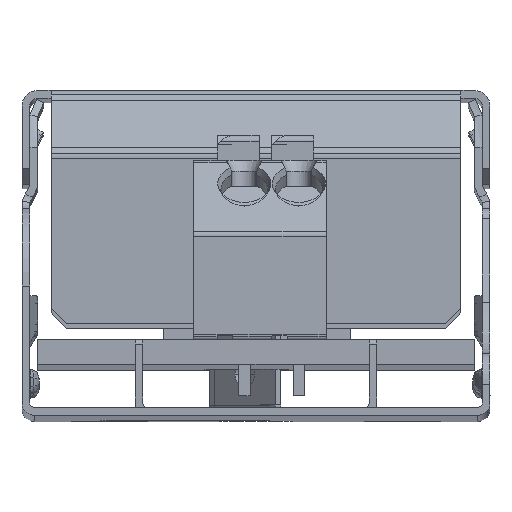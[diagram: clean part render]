
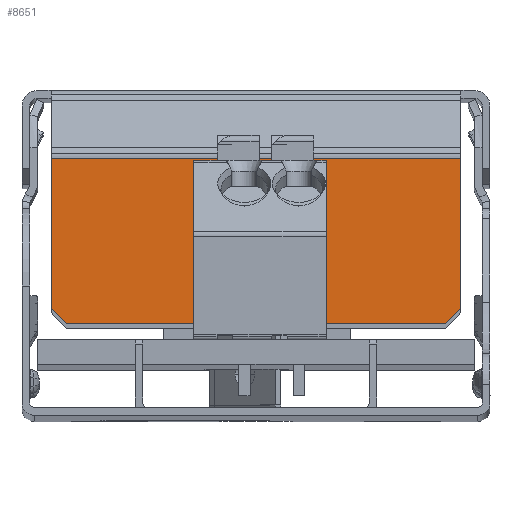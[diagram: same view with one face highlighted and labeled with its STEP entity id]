
A CAD part, top view. The second image highlights one B-rep face of the part: STEP entity #8651.
In plain terms, the highlighted planar face has unit normal (0, 0, 1).
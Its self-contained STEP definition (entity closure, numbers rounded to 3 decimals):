
#902 = VERTEX_POINT ( 'NONE', #15083 ) ;
#1785 = VECTOR ( 'NONE', #17153, 1000. ) ;
#2613 = CARTESIAN_POINT ( 'NONE',  ( 109.819, 104.426, 266.086 ) ) ;
#4032 = EDGE_CURVE ( 'NONE', #902, #11486, #41217, .T. ) ;
#5002 = CARTESIAN_POINT ( 'NONE',  ( 84.548, 115.009, 266.086 ) ) ;
#5644 = DIRECTION ( 'NONE',  ( 0., -1., 0. ) ) ;
#5781 = EDGE_CURVE ( 'NONE', #35199, #12349, #10322, .T. ) ;
#6549 = VERTEX_POINT ( 'NONE', #13498 ) ;
#7874 = CARTESIAN_POINT ( 'NONE',  ( 84.548, 105.426, 266.086 ) ) ;
#8646 = DIRECTION ( 'NONE',  ( 0.707, -0.707, 0. ) ) ;
#8648 = FACE_OUTER_BOUND ( 'NONE', #21283, .T. ) ;
#8651 = ADVANCED_FACE ( 'NONE', ( #8648 ), #23849, .T. ) ;
#8869 = CARTESIAN_POINT ( 'NONE',  ( 110.819, 105.426, 266.086 ) ) ;
#9276 = CARTESIAN_POINT ( 'NONE',  ( 110.819, 115.009, 266.086 ) ) ;
#10322 = LINE ( 'NONE', #7874, #1785 ) ;
#10632 = CARTESIAN_POINT ( 'NONE',  ( 110.819, 104.426, 266.086 ) ) ;
#10930 = ORIENTED_EDGE ( 'NONE', *, *, #12495, .T. ) ;
#11103 = DIRECTION ( 'NONE',  ( 1., 0., 0. ) ) ;
#11486 = VERTEX_POINT ( 'NONE', #27943 ) ;
#12349 = VERTEX_POINT ( 'NONE', #5002 ) ;
#12495 = EDGE_CURVE ( 'NONE', #6549, #11486, #24988, .T. ) ;
#12832 = VECTOR ( 'NONE', #8646, 1000. ) ;
#13453 = LINE ( 'NONE', #10632, #19992 ) ;
#13498 = CARTESIAN_POINT ( 'NONE',  ( 109.819, 104.426, 266.086 ) ) ;
#15083 = CARTESIAN_POINT ( 'NONE',  ( 110.819, 115.009, 266.086 ) ) ;
#15487 = VECTOR ( 'NONE', #28257, 1000. ) ;
#16912 = ORIENTED_EDGE ( 'NONE', *, *, #39607, .T. ) ;
#17153 = DIRECTION ( 'NONE',  ( 0., 1., 0. ) ) ;
#17528 = EDGE_CURVE ( 'NONE', #35199, #25862, #40306, .T. ) ;
#18997 = ORIENTED_EDGE ( 'NONE', *, *, #31454, .F. ) ;
#19992 = VECTOR ( 'NONE', #29774, 1000. ) ;
#21283 = EDGE_LOOP ( 'NONE', ( #10930, #30681, #18997, #21762, #28838, #16912 ) ) ;
#21762 = ORIENTED_EDGE ( 'NONE', *, *, #5781, .F. ) ;
#23849 = PLANE ( 'NONE',  #26777 ) ;
#24289 = CARTESIAN_POINT ( 'NONE',  ( 85.548, 104.426, 266.086 ) ) ;
#24988 = LINE ( 'NONE', #2613, #15487 ) ;
#25862 = VERTEX_POINT ( 'NONE', #24289 ) ;
#26777 = AXIS2_PLACEMENT_3D ( 'NONE', #27064, #30234, #11103 ) ;
#27064 = CARTESIAN_POINT ( 'NONE',  ( 110.819, 115.009, 266.086 ) ) ;
#27770 = VECTOR ( 'NONE', #41126, 1000. ) ;
#27943 = CARTESIAN_POINT ( 'NONE',  ( 110.819, 105.426, 266.086 ) ) ;
#28257 = DIRECTION ( 'NONE',  ( 0.707, 0.707, 0. ) ) ;
#28838 = ORIENTED_EDGE ( 'NONE', *, *, #17528, .T. ) ;
#29774 = DIRECTION ( 'NONE',  ( 1., 0., 0. ) ) ;
#30234 = DIRECTION ( 'NONE',  ( 0., 0., 1. ) ) ;
#30681 = ORIENTED_EDGE ( 'NONE', *, *, #4032, .F. ) ;
#31454 = EDGE_CURVE ( 'NONE', #12349, #902, #37219, .T. ) ;
#32683 = VECTOR ( 'NONE', #5644, 1000. ) ;
#35199 = VERTEX_POINT ( 'NONE', #40374 ) ;
#37219 = LINE ( 'NONE', #9276, #27770 ) ;
#39607 = EDGE_CURVE ( 'NONE', #25862, #6549, #13453, .T. ) ;
#40306 = LINE ( 'NONE', #40645, #12832 ) ;
#40374 = CARTESIAN_POINT ( 'NONE',  ( 84.548, 105.426, 266.086 ) ) ;
#40645 = CARTESIAN_POINT ( 'NONE',  ( 84.548, 105.426, 266.086 ) ) ;
#41126 = DIRECTION ( 'NONE',  ( 1., 0., 0. ) ) ;
#41217 = LINE ( 'NONE', #8869, #32683 ) ;
